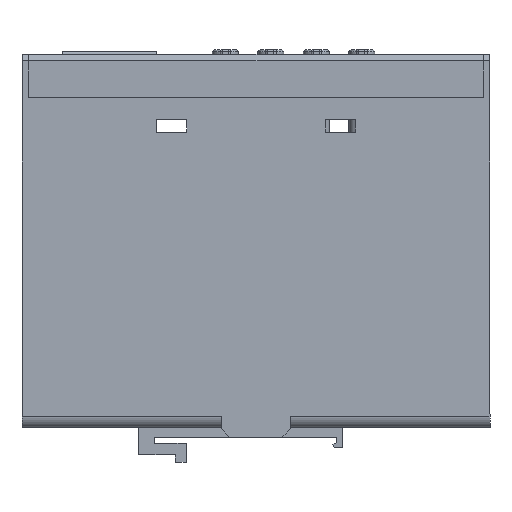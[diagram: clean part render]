
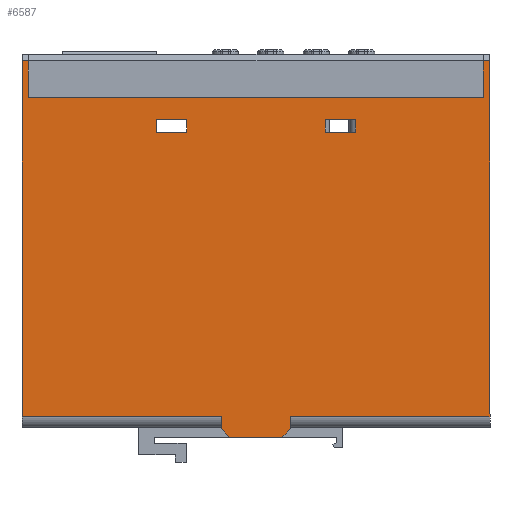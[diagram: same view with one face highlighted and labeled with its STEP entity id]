
A CAD part, left-side view. The second image highlights one B-rep face of the part: STEP entity #6587.
In plain terms, the highlighted planar face has unit normal (-1, 0, 0).
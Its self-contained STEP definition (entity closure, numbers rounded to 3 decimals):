
#4651=FACE_BOUND('',#10807,.T.);
#4652=FACE_BOUND('',#10808,.T.);
#4653=FACE_BOUND('',#10809,.T.);
#6587=ADVANCED_FACE('',(#4651,#4652,#4653),#7808,.F.);
#7808=PLANE('',#33525);
#10807=EDGE_LOOP('',(#16963,#16964,#16965,#16966,#16967,#16968,#16969,#16970,
#16971,#16972,#16973,#16974,#16975,#16976));
#10808=EDGE_LOOP('',(#16977,#16978,#16979,#16980));
#10809=EDGE_LOOP('',(#16981,#16982,#16983,#16984));
#16963=ORIENTED_EDGE('',*,*,#24656,.T.);
#16964=ORIENTED_EDGE('',*,*,#24657,.F.);
#16965=ORIENTED_EDGE('',*,*,#24658,.T.);
#16966=ORIENTED_EDGE('',*,*,#24659,.T.);
#16967=ORIENTED_EDGE('',*,*,#24515,.F.);
#16968=ORIENTED_EDGE('',*,*,#24660,.T.);
#16969=ORIENTED_EDGE('',*,*,#24661,.T.);
#16970=ORIENTED_EDGE('',*,*,#24524,.F.);
#16971=ORIENTED_EDGE('',*,*,#24662,.T.);
#16972=ORIENTED_EDGE('',*,*,#24471,.F.);
#16973=ORIENTED_EDGE('',*,*,#24475,.T.);
#16974=ORIENTED_EDGE('',*,*,#24393,.F.);
#16975=ORIENTED_EDGE('',*,*,#24480,.T.);
#16976=ORIENTED_EDGE('',*,*,#24484,.T.);
#16977=ORIENTED_EDGE('',*,*,#24462,.F.);
#16978=ORIENTED_EDGE('',*,*,#24465,.F.);
#16979=ORIENTED_EDGE('',*,*,#24468,.F.);
#16980=ORIENTED_EDGE('',*,*,#24522,.F.);
#16981=ORIENTED_EDGE('',*,*,#24451,.T.);
#16982=ORIENTED_EDGE('',*,*,#24455,.T.);
#16983=ORIENTED_EDGE('',*,*,#24458,.T.);
#16984=ORIENTED_EDGE('',*,*,#24520,.T.);
#20903=VERTEX_POINT('',#47919);
#20906=VERTEX_POINT('',#47924);
#20958=VERTEX_POINT('',#48047);
#20959=VERTEX_POINT('',#48049);
#20961=VERTEX_POINT('',#48055);
#20963=VERTEX_POINT('',#48061);
#20965=VERTEX_POINT('',#48066);
#20967=VERTEX_POINT('',#48070);
#20969=VERTEX_POINT('',#48076);
#20971=VERTEX_POINT('',#48082);
#20974=VERTEX_POINT('',#48089);
#20975=VERTEX_POINT('',#48091);
#20978=VERTEX_POINT('',#48105);
#20981=VERTEX_POINT('',#48113);
#21003=VERTEX_POINT('',#48169);
#21004=VERTEX_POINT('',#48171);
#21007=VERTEX_POINT('',#48185);
#21008=VERTEX_POINT('',#48187);
#21135=VERTEX_POINT('',#48448);
#21136=VERTEX_POINT('',#48450);
#21137=VERTEX_POINT('',#48452);
#21138=VERTEX_POINT('',#48455);
#24393=EDGE_CURVE('',#20906,#20903,#27742,.T.);
#24451=EDGE_CURVE('',#20959,#20958,#27796,.T.);
#24455=EDGE_CURVE('',#20958,#20961,#27800,.T.);
#24458=EDGE_CURVE('',#20961,#20963,#27803,.T.);
#24462=EDGE_CURVE('',#20967,#20965,#27807,.T.);
#24465=EDGE_CURVE('',#20969,#20967,#27810,.T.);
#24468=EDGE_CURVE('',#20971,#20969,#27813,.T.);
#24471=EDGE_CURVE('',#20974,#20975,#27816,.T.);
#24475=EDGE_CURVE('',#20974,#20903,#27819,.T.);
#24480=EDGE_CURVE('',#20906,#20978,#27824,.T.);
#24484=EDGE_CURVE('',#20978,#20981,#27827,.T.);
#24515=EDGE_CURVE('',#21003,#21004,#27856,.T.);
#24520=EDGE_CURVE('',#20963,#20959,#27861,.T.);
#24522=EDGE_CURVE('',#20965,#20971,#27863,.T.);
#24524=EDGE_CURVE('',#21007,#21008,#27864,.T.);
#24656=EDGE_CURVE('',#20981,#21135,#27995,.T.);
#24657=EDGE_CURVE('',#21136,#21135,#27996,.T.);
#24658=EDGE_CURVE('',#21136,#21137,#27997,.T.);
#24659=EDGE_CURVE('',#21137,#21004,#27998,.T.);
#24660=EDGE_CURVE('',#21003,#21138,#27999,.T.);
#24661=EDGE_CURVE('',#21138,#21008,#28000,.T.);
#24662=EDGE_CURVE('',#21007,#20975,#28001,.T.);
#27742=LINE('',#47925,#30962);
#27796=LINE('',#48048,#31016);
#27800=LINE('',#48056,#31020);
#27803=LINE('',#48062,#31023);
#27807=LINE('',#48071,#31027);
#27810=LINE('',#48077,#31030);
#27813=LINE('',#48083,#31033);
#27816=LINE('',#48090,#31036);
#27819=LINE('',#48097,#31039);
#27824=LINE('',#48106,#31044);
#27827=LINE('',#48114,#31047);
#27856=LINE('',#48170,#31076);
#27861=LINE('',#48179,#31081);
#27863=LINE('',#48182,#31083);
#27864=LINE('',#48186,#31084);
#27995=LINE('',#48447,#31215);
#27996=LINE('',#48449,#31216);
#27997=LINE('',#48451,#31217);
#27998=LINE('',#48453,#31218);
#27999=LINE('',#48454,#31219);
#28000=LINE('',#48456,#31220);
#28001=LINE('',#48457,#31221);
#30962=VECTOR('',#39056,1.);
#31016=VECTOR('',#39144,1.);
#31020=VECTOR('',#39150,1.);
#31023=VECTOR('',#39155,1.);
#31027=VECTOR('',#39161,1.);
#31030=VECTOR('',#39166,1.);
#31033=VECTOR('',#39171,1.);
#31036=VECTOR('',#39176,1.);
#31039=VECTOR('',#39183,1.);
#31044=VECTOR('',#39192,1.);
#31047=VECTOR('',#39199,1.);
#31076=VECTOR('',#39238,1.);
#31081=VECTOR('',#39245,1.);
#31083=VECTOR('',#39249,1.);
#31084=VECTOR('',#39254,1.);
#31215=VECTOR('',#39391,1.);
#31216=VECTOR('',#39392,1.);
#31217=VECTOR('',#39393,1.);
#31218=VECTOR('',#39394,1.);
#31219=VECTOR('',#39395,1.);
#31220=VECTOR('',#39396,1.);
#31221=VECTOR('',#39397,1.);
#33525=AXIS2_PLACEMENT_3D('',#48458,#39398,#39399);
#39056=DIRECTION('',(0.,1.,0.));
#39144=DIRECTION('',(0.,0.,-1.));
#39150=DIRECTION('',(0.,1.,0.));
#39155=DIRECTION('',(0.,0.,1.));
#39161=DIRECTION('',(0.,-1.,0.));
#39166=DIRECTION('',(0.,0.,-1.));
#39171=DIRECTION('',(0.,1.,0.));
#39176=DIRECTION('',(0.,0.,1.));
#39183=DIRECTION('',(0.,-0.707,-0.707));
#39192=DIRECTION('',(0.,-0.707,0.707));
#39199=DIRECTION('',(0.,0.,1.));
#39238=DIRECTION('',(0.,-1.,0.));
#39245=DIRECTION('',(0.,-1.,0.));
#39249=DIRECTION('',(0.,0.,1.));
#39254=DIRECTION('',(0.,0.,1.));
#39391=DIRECTION('',(0.,-1.,0.));
#39392=DIRECTION('',(0.,0.,-1.));
#39393=DIRECTION('',(0.,1.,0.));
#39394=DIRECTION('',(0.,0.,-1.));
#39395=DIRECTION('',(0.,0.,1.));
#39396=DIRECTION('',(0.,1.,0.));
#39397=DIRECTION('',(0.,-1.,0.));
#39398=DIRECTION('',(1.,0.,0.));
#39399=DIRECTION('',(0.,1.,0.));
#47919=CARTESIAN_POINT('',(-595.489,418.71,-37.525));
#47924=CARTESIAN_POINT('',(-595.489,406.759,-37.525));
#47925=CARTESIAN_POINT('',(-595.489,402.759,-37.525));
#48047=CARTESIAN_POINT('',(-595.489,389.71,32.875));
#48048=CARTESIAN_POINT('',(-595.489,389.71,-22.65));
#48049=CARTESIAN_POINT('',(-595.489,389.71,35.875));
#48055=CARTESIAN_POINT('',(-595.489,396.71,32.875));
#48056=CARTESIAN_POINT('',(-595.489,256.,32.875));
#48061=CARTESIAN_POINT('',(-595.489,396.71,35.875));
#48062=CARTESIAN_POINT('',(-595.489,396.71,-22.65));
#48066=CARTESIAN_POINT('',(-595.489,428.71,32.875));
#48070=CARTESIAN_POINT('',(-595.489,435.71,32.875));
#48071=CARTESIAN_POINT('',(-595.489,244.,32.875));
#48076=CARTESIAN_POINT('',(-595.489,435.71,35.875));
#48077=CARTESIAN_POINT('',(-595.489,435.71,-22.65));
#48082=CARTESIAN_POINT('',(-595.489,428.71,35.875));
#48083=CARTESIAN_POINT('',(-595.489,244.,35.875));
#48089=CARTESIAN_POINT('',(-595.489,420.71,-35.525));
#48090=CARTESIAN_POINT('',(-595.489,420.71,-50.225));
#48091=CARTESIAN_POINT('',(-595.489,420.71,-32.725));
#48097=CARTESIAN_POINT('',(-595.489,404.385,-51.851));
#48105=CARTESIAN_POINT('',(-595.489,404.759,-35.525));
#48106=CARTESIAN_POINT('',(-595.489,411.109,-41.875));
#48113=CARTESIAN_POINT('',(-595.489,404.759,-32.725));
#48114=CARTESIAN_POINT('',(-595.489,404.759,-50.225));
#48169=CARTESIAN_POINT('',(-595.489,465.21,40.875));
#48170=CARTESIAN_POINT('',(-595.489,240.,40.875));
#48171=CARTESIAN_POINT('',(-595.489,360.21,40.875));
#48179=CARTESIAN_POINT('',(-595.489,256.,35.875));
#48182=CARTESIAN_POINT('',(-595.489,428.71,-22.65));
#48185=CARTESIAN_POINT('',(-595.489,466.71,-32.725));
#48186=CARTESIAN_POINT('',(-595.489,466.71,-35.225));
#48187=CARTESIAN_POINT('',(-595.489,466.71,49.375));
#48447=CARTESIAN_POINT('',(-595.489,466.71,-32.725));
#48448=CARTESIAN_POINT('',(-595.489,358.71,-32.725));
#48449=CARTESIAN_POINT('',(-595.489,358.71,73.525));
#48450=CARTESIAN_POINT('',(-595.489,358.71,49.375));
#48451=CARTESIAN_POINT('',(-595.489,358.71,49.375));
#48452=CARTESIAN_POINT('',(-595.489,360.21,49.375));
#48453=CARTESIAN_POINT('',(-595.489,360.21,73.525));
#48454=CARTESIAN_POINT('',(-595.489,465.21,-35.225));
#48455=CARTESIAN_POINT('',(-595.489,465.21,49.375));
#48456=CARTESIAN_POINT('',(-595.489,466.71,49.375));
#48457=CARTESIAN_POINT('',(-595.489,466.71,-32.725));
#48458=CARTESIAN_POINT('',(-595.489,466.71,-35.225));
